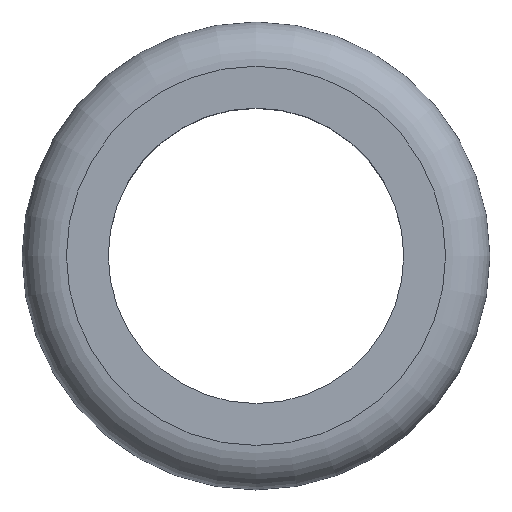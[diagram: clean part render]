
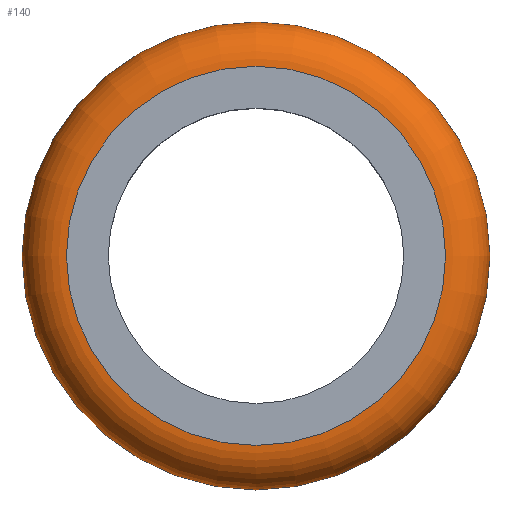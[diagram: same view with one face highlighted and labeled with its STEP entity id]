
A CAD part, top view. The second image highlights one B-rep face of the part: STEP entity #140.
In plain terms, the highlighted toroidal (fillet/blend) face has major radius 7.7 mm and minor radius 1.8 mm.
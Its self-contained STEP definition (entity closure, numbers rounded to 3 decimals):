
#16=TOROIDAL_SURFACE('',#175,7.7,1.8);
#42=FACE_OUTER_BOUND('',#56,.T.);
#56=EDGE_LOOP('',(#123,#124,#125,#126));
#57=CIRCLE('',#156,7.7);
#67=CIRCLE('',#174,9.5);
#68=CIRCLE('',#176,1.8);
#69=VERTEX_POINT('',#229);
#78=VERTEX_POINT('',#259);
#79=EDGE_CURVE('',#69,#69,#57,.T.);
#92=EDGE_CURVE('',#78,#78,#67,.T.);
#94=EDGE_CURVE('',#69,#78,#68,.T.);
#123=ORIENTED_EDGE('',*,*,#79,.F.);
#124=ORIENTED_EDGE('',*,*,#94,.T.);
#125=ORIENTED_EDGE('',*,*,#92,.T.);
#126=ORIENTED_EDGE('',*,*,#94,.F.);
#140=ADVANCED_FACE('',(#42),#16,.T.);
#156=AXIS2_PLACEMENT_3D('',#230,#181,#182);
#174=AXIS2_PLACEMENT_3D('',#260,#220,#221);
#175=AXIS2_PLACEMENT_3D('',#262,#223,#224);
#176=AXIS2_PLACEMENT_3D('',#263,#225,#226);
#181=DIRECTION('center_axis',(0.,0.,1.));
#182=DIRECTION('ref_axis',(1.,0.,0.));
#220=DIRECTION('center_axis',(0.,0.,1.));
#221=DIRECTION('ref_axis',(1.,0.,0.));
#223=DIRECTION('center_axis',(0.,0.,1.));
#224=DIRECTION('ref_axis',(1.,0.,0.));
#225=DIRECTION('center_axis',(0.,-1.,0.));
#226=DIRECTION('ref_axis',(-1.,0.,0.));
#229=CARTESIAN_POINT('',(-7.7,0.,3.6));
#230=CARTESIAN_POINT('Origin',(0.,0.,3.6));
#259=CARTESIAN_POINT('',(-9.5,0.,1.8));
#260=CARTESIAN_POINT('Origin',(0.,0.,1.8));
#262=CARTESIAN_POINT('Origin',(0.,0.,1.8));
#263=CARTESIAN_POINT('Origin',(-7.7,0.,1.8));
